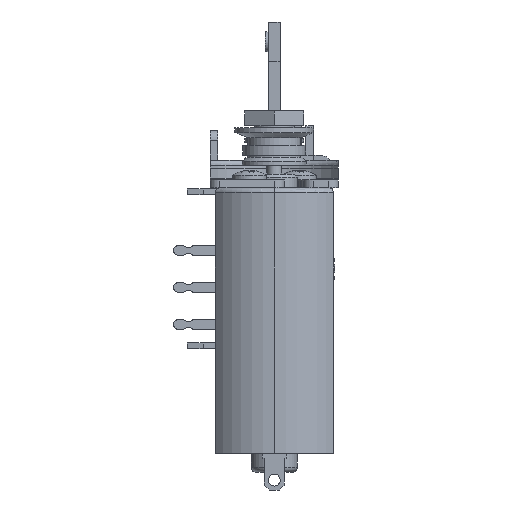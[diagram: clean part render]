
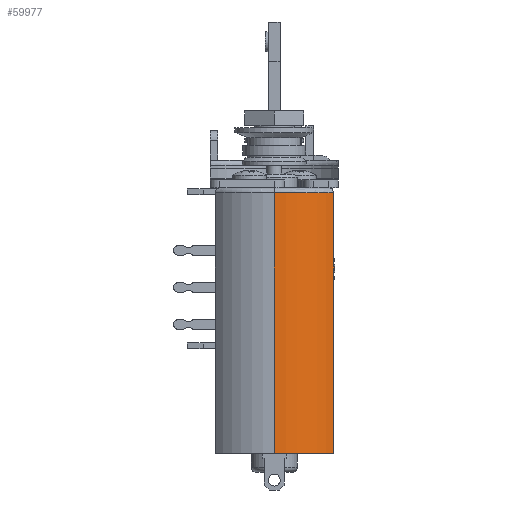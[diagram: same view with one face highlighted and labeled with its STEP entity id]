
A CAD part, left-side view. The second image highlights one B-rep face of the part: STEP entity #59977.
In plain terms, the highlighted cylindrical face has radius 7.75 mm (diameter 15.5 mm), a partial arc.
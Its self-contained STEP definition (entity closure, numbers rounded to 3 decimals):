
#54765 = TOROIDAL_SURFACE('',#54766,7.25,0.5);
#54766 = AXIS2_PLACEMENT_3D('',#54767,#54768,#54769);
#54767 = CARTESIAN_POINT('',(-52.5,0.,-8.3));
#54768 = DIRECTION('',(0.,0.,1.));
#54769 = DIRECTION('',(-1.,0.,0.));
#57208 = VERTEX_POINT('',#57209);
#57209 = CARTESIAN_POINT('',(-60.25,0.,-8.3));
#57229 = EDGE_CURVE('',#57208,#57230,#57232,.T.);
#57230 = VERTEX_POINT('',#57231);
#57231 = CARTESIAN_POINT('',(-57.405,-6.,-8.3));
#57232 = SURFACE_CURVE('',#57233,(#57238,#57245),.PCURVE_S1.);
#57233 = CIRCLE('',#57234,7.75);
#57234 = AXIS2_PLACEMENT_3D('',#57235,#57236,#57237);
#57235 = CARTESIAN_POINT('',(-52.5,0.,-8.3));
#57236 = DIRECTION('',(0.,0.,1.));
#57237 = DIRECTION('',(-1.,0.,0.));
#57238 = PCURVE('',#54765,#57239);
#57239 = DEFINITIONAL_REPRESENTATION('',(#57240),#57244);
#57240 = LINE('',#57241,#57242);
#57241 = CARTESIAN_POINT('',(0.,0.));
#57242 = VECTOR('',#57243,1.);
#57243 = DIRECTION('',(1.,0.));
#57244 = ( GEOMETRIC_REPRESENTATION_CONTEXT(2) 
PARAMETRIC_REPRESENTATION_CONTEXT() REPRESENTATION_CONTEXT('2D SPACE',''
  ) );
#57245 = PCURVE('',#57246,#57251);
#57246 = CYLINDRICAL_SURFACE('',#57247,7.75);
#57247 = AXIS2_PLACEMENT_3D('',#57248,#57249,#57250);
#57248 = CARTESIAN_POINT('',(-52.5,0.,-7.8));
#57249 = DIRECTION('',(0.,0.,1.));
#57250 = DIRECTION('',(-1.,0.,0.));
#57251 = DEFINITIONAL_REPRESENTATION('',(#57252),#57256);
#57252 = LINE('',#57253,#57254);
#57253 = CARTESIAN_POINT('',(0.,-0.5));
#57254 = VECTOR('',#57255,1.);
#57255 = DIRECTION('',(1.,0.));
#57256 = ( GEOMETRIC_REPRESENTATION_CONTEXT(2) 
PARAMETRIC_REPRESENTATION_CONTEXT() REPRESENTATION_CONTEXT('2D SPACE',''
  ) );
#57368 = PLANE('',#57369);
#57369 = AXIS2_PLACEMENT_3D('',#57370,#57371,#57372);
#57370 = CARTESIAN_POINT('',(-40.5,-6.,-40.8));
#57371 = DIRECTION('',(0.,-1.,0.));
#57372 = DIRECTION('',(0.,0.,1.));
#57665 = CYLINDRICAL_SURFACE('',#57666,7.75);
#57666 = AXIS2_PLACEMENT_3D('',#57667,#57668,#57669);
#57667 = CARTESIAN_POINT('',(-52.5,0.,-7.8));
#57668 = DIRECTION('',(0.,0.,1.));
#57669 = DIRECTION('',(-1.,0.,0.));
#59977 = ADVANCED_FACE('',(#59978),#57246,.T.);
#59978 = FACE_BOUND('',#59979,.T.);
#59979 = EDGE_LOOP('',(#59980,#60001,#60002,#60025));
#59980 = ORIENTED_EDGE('',*,*,#59981,.T.);
#59981 = EDGE_CURVE('',#59982,#57230,#59984,.T.);
#59982 = VERTEX_POINT('',#59983);
#59983 = CARTESIAN_POINT('',(-57.405,-6.,-34.7));
#59984 = SURFACE_CURVE('',#59985,(#59989,#59995),.PCURVE_S1.);
#59985 = LINE('',#59986,#59987);
#59986 = CARTESIAN_POINT('',(-57.405,-6.,-7.8));
#59987 = VECTOR('',#59988,1.);
#59988 = DIRECTION('',(0.,0.,1.));
#59989 = PCURVE('',#57246,#59990);
#59990 = DEFINITIONAL_REPRESENTATION('',(#59991),#59994);
#59991 = B_SPLINE_CURVE_WITH_KNOTS('',1,(#59992,#59993),.UNSPECIFIED.,
  .F.,.F.,(2,2),(-26.9,0.),.PIECEWISE_BEZIER_KNOTS.);
#59992 = CARTESIAN_POINT('',(0.885,-26.9));
#59993 = CARTESIAN_POINT('',(0.885,0.));
#59994 = ( GEOMETRIC_REPRESENTATION_CONTEXT(2) 
PARAMETRIC_REPRESENTATION_CONTEXT() REPRESENTATION_CONTEXT('2D SPACE',''
  ) );
#59995 = PCURVE('',#57368,#59996);
#59996 = DEFINITIONAL_REPRESENTATION('',(#59997),#60000);
#59997 = B_SPLINE_CURVE_WITH_KNOTS('',1,(#59998,#59999),.UNSPECIFIED.,
  .F.,.F.,(2,2),(-26.9,0.),.PIECEWISE_BEZIER_KNOTS.);
#59998 = CARTESIAN_POINT('',(6.1,16.905));
#59999 = CARTESIAN_POINT('',(33.,16.905));
#60000 = ( GEOMETRIC_REPRESENTATION_CONTEXT(2) 
PARAMETRIC_REPRESENTATION_CONTEXT() REPRESENTATION_CONTEXT('2D SPACE',''
  ) );
#60001 = ORIENTED_EDGE('',*,*,#57229,.F.);
#60002 = ORIENTED_EDGE('',*,*,#60003,.T.);
#60003 = EDGE_CURVE('',#57208,#60004,#60006,.T.);
#60004 = VERTEX_POINT('',#60005);
#60005 = CARTESIAN_POINT('',(-60.25,0.,-34.7));
#60006 = SURFACE_CURVE('',#60007,(#60011,#60018),.PCURVE_S1.);
#60007 = LINE('',#60008,#60009);
#60008 = CARTESIAN_POINT('',(-60.25,0.,-7.8));
#60009 = VECTOR('',#60010,1.);
#60010 = DIRECTION('',(0.,0.,-1.));
#60011 = PCURVE('',#57246,#60012);
#60012 = DEFINITIONAL_REPRESENTATION('',(#60013),#60017);
#60013 = LINE('',#60014,#60015);
#60014 = CARTESIAN_POINT('',(0.,0.));
#60015 = VECTOR('',#60016,1.);
#60016 = DIRECTION('',(0.,-1.));
#60017 = ( GEOMETRIC_REPRESENTATION_CONTEXT(2) 
PARAMETRIC_REPRESENTATION_CONTEXT() REPRESENTATION_CONTEXT('2D SPACE',''
  ) );
#60018 = PCURVE('',#57665,#60019);
#60019 = DEFINITIONAL_REPRESENTATION('',(#60020),#60024);
#60020 = LINE('',#60021,#60022);
#60021 = CARTESIAN_POINT('',(6.283,0.));
#60022 = VECTOR('',#60023,1.);
#60023 = DIRECTION('',(0.,-1.));
#60024 = ( GEOMETRIC_REPRESENTATION_CONTEXT(2) 
PARAMETRIC_REPRESENTATION_CONTEXT() REPRESENTATION_CONTEXT('2D SPACE',''
  ) );
#60025 = ORIENTED_EDGE('',*,*,#60026,.T.);
#60026 = EDGE_CURVE('',#60004,#59982,#60027,.T.);
#60027 = SURFACE_CURVE('',#60028,(#60033,#60040),.PCURVE_S1.);
#60028 = CIRCLE('',#60029,7.75);
#60029 = AXIS2_PLACEMENT_3D('',#60030,#60031,#60032);
#60030 = CARTESIAN_POINT('',(-52.5,0.,-34.7));
#60031 = DIRECTION('',(0.,0.,1.));
#60032 = DIRECTION('',(-1.,0.,0.));
#60033 = PCURVE('',#57246,#60034);
#60034 = DEFINITIONAL_REPRESENTATION('',(#60035),#60039);
#60035 = LINE('',#60036,#60037);
#60036 = CARTESIAN_POINT('',(0.,-26.9));
#60037 = VECTOR('',#60038,1.);
#60038 = DIRECTION('',(1.,0.));
#60039 = ( GEOMETRIC_REPRESENTATION_CONTEXT(2) 
PARAMETRIC_REPRESENTATION_CONTEXT() REPRESENTATION_CONTEXT('2D SPACE',''
  ) );
#60040 = PCURVE('',#60041,#60046);
#60041 = PLANE('',#60042);
#60042 = AXIS2_PLACEMENT_3D('',#60043,#60044,#60045);
#60043 = CARTESIAN_POINT('',(-52.5,0.,-34.7));
#60044 = DIRECTION('',(0.,0.,1.));
#60045 = DIRECTION('',(-1.,0.,0.));
#60046 = DEFINITIONAL_REPRESENTATION('',(#60047),#60051);
#60047 = CIRCLE('',#60048,7.75);
#60048 = AXIS2_PLACEMENT_2D('',#60049,#60050);
#60049 = CARTESIAN_POINT('',(0.,0.));
#60050 = DIRECTION('',(1.,0.));
#60051 = ( GEOMETRIC_REPRESENTATION_CONTEXT(2) 
PARAMETRIC_REPRESENTATION_CONTEXT() REPRESENTATION_CONTEXT('2D SPACE',''
  ) );
